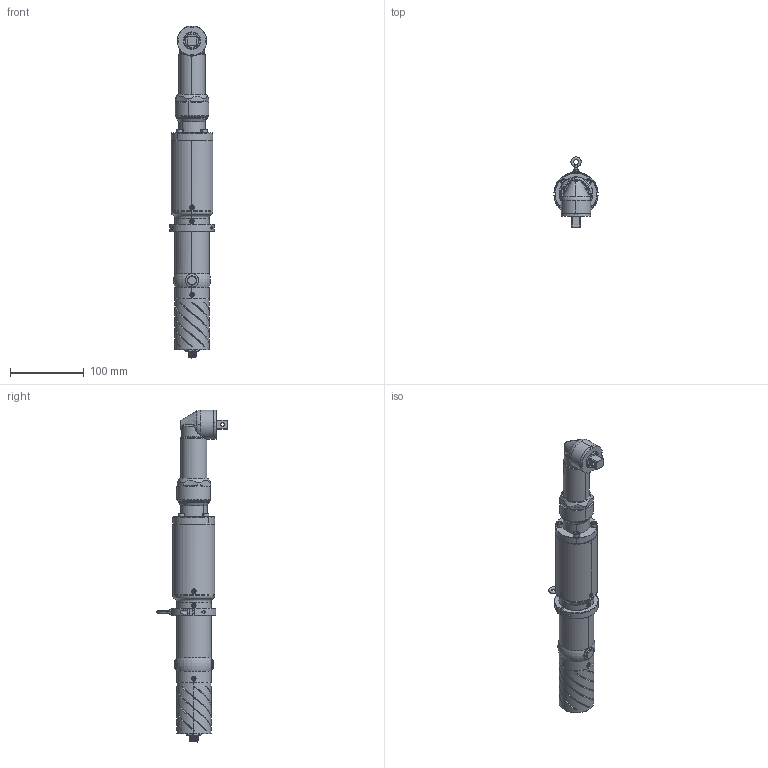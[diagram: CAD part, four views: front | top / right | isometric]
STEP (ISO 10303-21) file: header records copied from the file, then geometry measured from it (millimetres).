
FILE_DESCRIPTION (( 'STEP AP203' ), '1' );
FILE_NAME ('Pluto 45ANG + testina Ober 75Nm.STEP', '2019-10-25T14:53:32', ( '' ), ( '' ), 'SwSTEP 2.0', 'SolidWorks 2017', '' );
FILE_SCHEMA (( 'CONFIG_CONTROL_DESIGN' ));
Length unit declared in the file: millimetre
Products named in the file (1): Pluto 45ANG + testina Ober 75Nm
Bounding box: 59.92 x 96 x 451.5 mm (x, y, z)
Volume: 539721.2 mm3; surface area: 225424.7 mm2
Topology: 66 solids, 66 shells, 1950 faces, 4914 edges, 3072 vertices
Faces by surface type: cylinder 774, plane 553, bspline 297, cone 255, torus 71
Entity records: 80798 total; most frequent: CARTESIAN_POINT 35849, ORIENTED_EDGE 9608, DIRECTION 9190, EDGE_CURVE 4804, AXIS2_PLACEMENT_3D 3717, VERTEX_POINT 3072, EDGE_LOOP 2174, CIRCLE 2063
